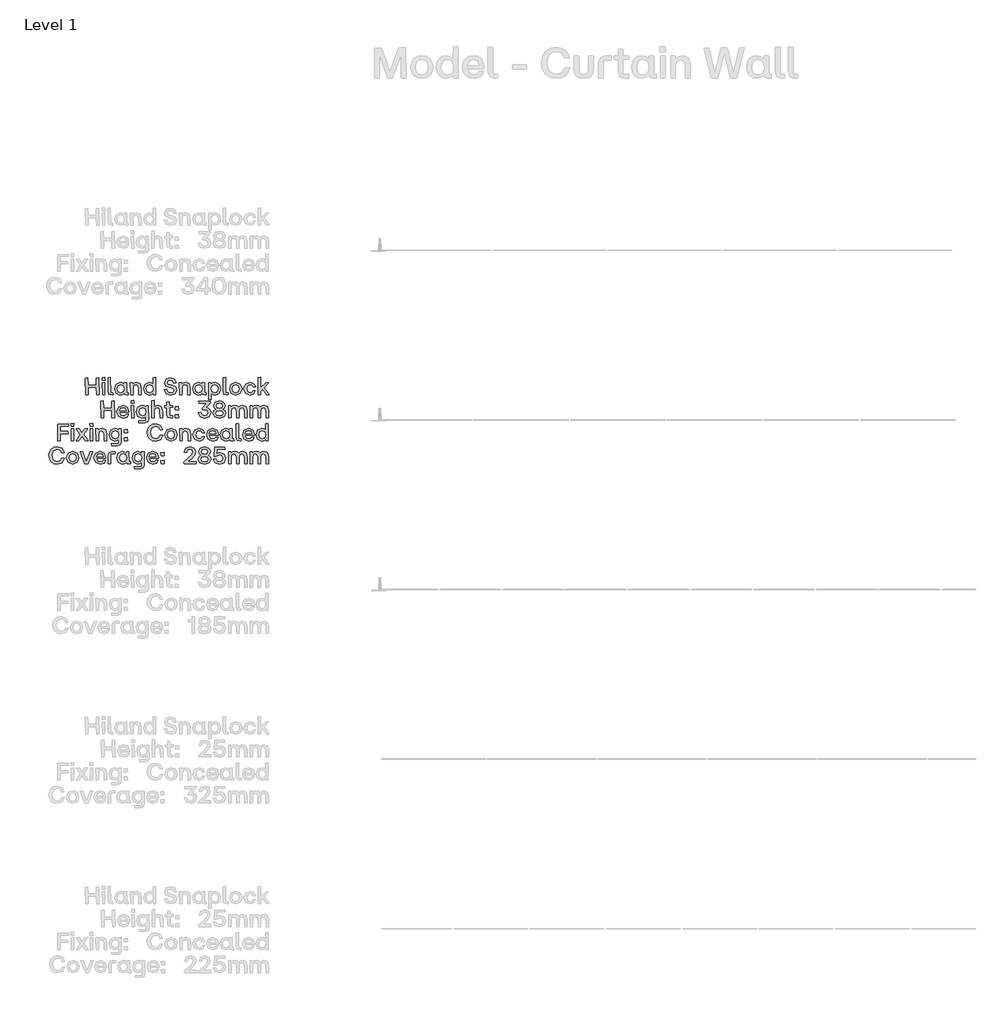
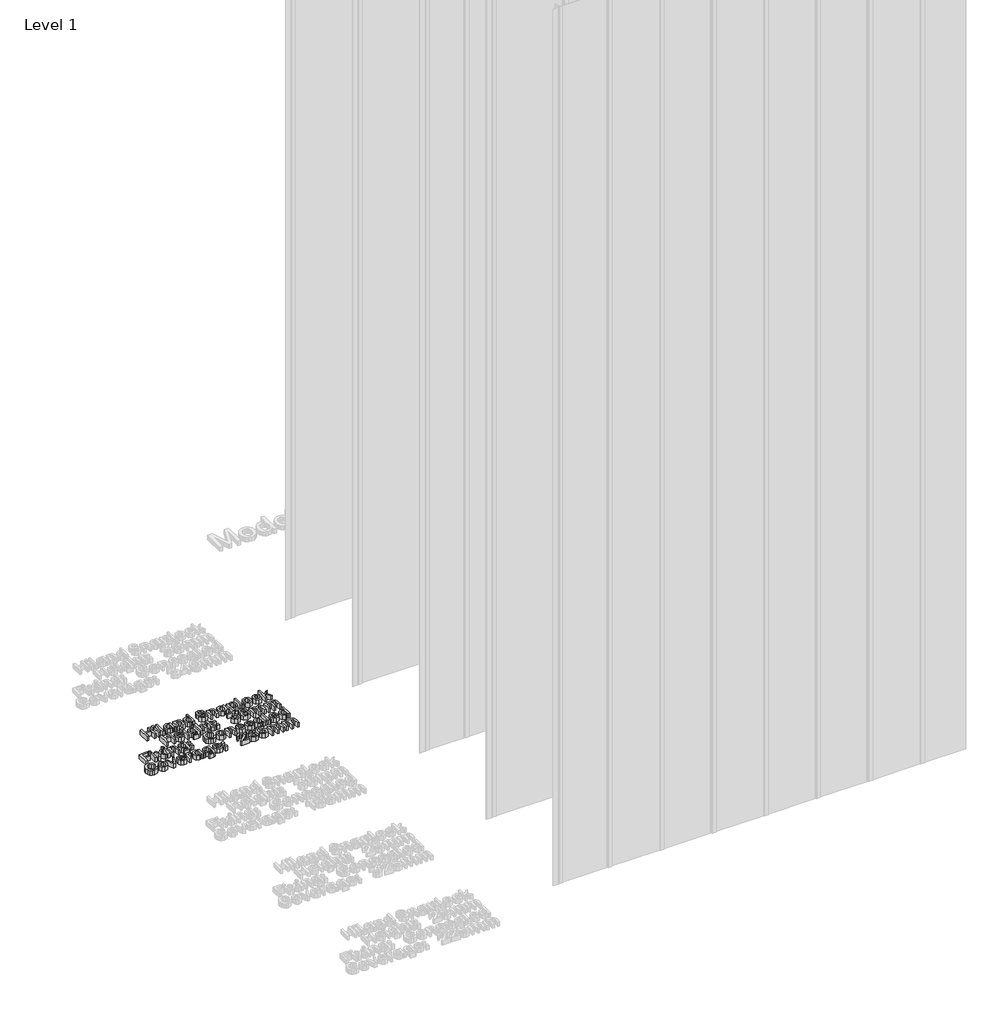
# One storey, part 8 of 64: 1 proxy.
"""IFC4 building model written with IfcOpenShell, lengths in millimetres."""

from ifc_helpers import new_model, si_unit, origin, origin_with_axes, place, context, project, spatial, polyline, outline, extrude, element, save

model = new_model("IFC4")

# Units and contexts
model_context = context("Model", 3, world=origin())
ifc_project = project(units=[si_unit("LENGTHUNIT", "METRE", prefix="MILLI")], contexts=[model_context])

# Site, building, storey
site = spatial("IfcSite", under=ifc_project)
building = spatial("IfcBuilding", under=site)
storey = spatial("IfcBuildingStorey", under=building, Name="Level 1", Elevation=0.0)

# Proxy
placement = place(None, origin())
element("IfcBuildingElementProxy", 1, Name="50mm", ObjectType="50mm", at=placement, inside=storey, context=model_context, shape_type="SweptSolid", body=[
    extrude(outline(polyline([(-811.1721134, -7433.5188866), (-811.8694452, -7411.5808277), (-835.7181932, -7411.5808277), (-835.7181932, -7432.8215548), (-843.2214836, -7433.5188866), (-843.9467087, -7384.2454206), (-836.457365, -7383.5201955), (-835.7181932, -7404.6075096), (-811.8694452, -7404.6075096), (-811.8694452, -7384.2454206), (-804.3801015, -7383.5201955), (-803.6827697, -7432.8215548), (-811.1721134, -7433.5188866)])), origin_with_axes(), (0.0, 0.0, 1.0), 20.0),
    extrude(outline(polyline([(-793.585405, -7433.5188866), (-794.3106301, -7397.8154977), (-787.1002191, -7397.1181659), (-786.4028873, -7432.8215548), (-793.585405, -7433.5188866)])), origin_with_axes(), (0.0, 0.0, 1.0), 20.0),
    extrude(outline(polyline([(-794.5198296, -7390.4516737), (-794.8684955, -7382.4044646), (-786.4726205, -7381.6652929), (-785.7334488, -7390.1030078), (-794.5198296, -7390.4516737)])), origin_with_axes(), (0.0, 0.0, 1.0), 20.0),
    extrude(outline(polyline([(-767.0031162, -7433.5188866), (-774.7016595, -7430.8690257), (-777.3515204, -7423.1565359), (-777.3515204, -7382.8228637), (-770.1411094, -7382.083692), (-769.4437776, -7427.2429003), (-762.7772854, -7427.2429003), (-762.0799536, -7432.8215548), (-767.0031162, -7433.5188866)])), origin_with_axes(), (0.0, 0.0, 1.0), 20.0),
    extrude(outline(polyline([(-741.9131175, -7433.9372857), (-753.6840786, -7428.8955767), (-758.0633224, -7415.3882594), (-753.6840786, -7401.7484491), (-741.9131175, -7396.6579269), (-735.2954386, -7398.2617901), (-730.3095161, -7402.6549805), (-729.9887435, -7397.8154977), (-722.8062258, -7397.1181659), (-722.0810007, -7427.2429003), (-718.1341027, -7427.2429003), (-717.4367709, -7432.8215548), (-723.4338245, -7433.5188866), (-728.0885143, -7432.2113895), (-729.6400776, -7428.288898), (-734.9955859, -7432.3334225), (-741.9131175, -7433.9372857)]), holes=[polyline([(-750.0021666, -7415.3882594), (-747.2477059, -7424.2792401), (-739.7234956, -7427.521833), (-732.3596717, -7424.2931867), (-729.7098108, -7415.3882594), (-732.3805916, -7406.392679), (-739.7234956, -7403.1152195), (-747.2477059, -7406.392679), (-750.0021666, -7415.3882594)])]), origin_with_axes(), (0.0, 0.0, 1.0), 20.0),
    extrude(outline(polyline([(-710.5750258, -7433.5188866), (-711.3002509, -7397.8154977), (-704.4385058, -7397.1181659), (-703.741174, -7402.6549805), (-698.5774319, -7398.1571903), (-691.9562663, -7396.6579269), (-682.3958472, -7400.8419178), (-679.083521, -7413.0870644), (-679.083521, -7432.8215548), (-686.3078786, -7433.5188866), (-687.0331037, -7413.0870644), (-688.9856328, -7405.7092939), (-695.1570194, -7403.3941522), (-701.3841925, -7405.7441604), (-703.3925081, -7413.0870644), (-703.3925081, -7432.8215548), (-710.5750258, -7433.5188866)])), origin_with_axes(), (0.0, 0.0, 1.0), 20.0),
    extrude(outline(polyline([(-656.2249842, -7433.9372857), (-667.9959452, -7428.8955767), (-672.375189, -7415.3882594), (-667.9959452, -7401.7484491), (-656.2249842, -7396.6579269), (-649.6073052, -7398.2617901), (-644.6213828, -7402.6549805), (-644.3006101, -7382.8228637), (-637.1180924, -7382.083692), (-636.3928674, -7432.8215548), (-643.2546124, -7433.5188866), (-643.9519442, -7428.0099653), (-649.3074526, -7432.3334225), (-656.2249842, -7433.9372857)]), holes=[polyline([(-664.3140332, -7415.3882594), (-661.5595725, -7424.2792401), (-654.0353623, -7427.521833), (-646.6715383, -7424.2931867), (-644.0216774, -7415.3882594), (-646.6924583, -7406.392679), (-654.0353623, -7403.1152195), (-661.5595725, -7406.392679), (-664.3140332, -7415.3882594)])]), origin_with_axes(), (0.0, 0.0, 1.0), 20.0),
    extrude(outline(polyline([(-592.2378169, -7433.9372857), (-605.8218406, -7429.823028), (-611.8049476, -7418.1078535), (-604.4411236, -7417.2989486), (-600.2780527, -7424.9417053), (-592.2378169, -7427.1034339), (-585.2854187, -7425.1160383), (-582.7959441, -7419.6001436), (-584.5183537, -7415.0186736), (-590.2852878, -7412.7383985), (-596.8820467, -7411.5808277), (-607.3629439, -7406.8180514), (-610.8565763, -7397.4668318), (-606.3797061, -7386.9022548), (-593.8835199, -7383.1017964), (-581.2897074, -7386.951068), (-575.6831596, -7397.8154977), (-583.0051436, -7398.610456), (-587.0287482, -7391.8672573), (-593.8835199, -7389.9635415), (-600.417519, -7391.706871), (-602.6699008, -7396.7973933), (-600.6615852, -7401.6299027), (-594.3716522, -7404.1612172), (-587.8167332, -7405.3048414), (-577.7193685, -7409.8932847), (-574.5953219, -7419.4606772), (-579.2883651, -7430.1019607), (-592.2378169, -7433.9372857)])), origin_with_axes(), (0.0, 0.0, 1.0), 20.0),
    extrude(outline(polyline([(-565.9763007, -7433.5188866), (-566.7015258, -7397.8154977), (-559.8397808, -7397.1181659), (-559.1424489, -7402.6549805), (-553.9787069, -7398.1571903), (-547.3575413, -7396.6579269), (-537.7971221, -7400.8419178), (-534.484796, -7413.0870644), (-534.484796, -7432.8215548), (-541.7091536, -7433.5188866), (-542.4343787, -7413.0870644), (-544.3869077, -7405.7092939), (-550.5582943, -7403.3941522), (-556.7854674, -7405.7441604), (-558.793783, -7413.0870644), (-558.793783, -7432.8215548), (-565.9763007, -7433.5188866)])), origin_with_axes(), (0.0, 0.0, 1.0), 20.0),
    extrude(outline(polyline([(-511.6262591, -7433.9372857), (-523.3972201, -7428.8955767), (-527.7764639, -7415.3882594), (-523.3972201, -7401.7484491), (-511.6262591, -7396.6579269), (-505.0085802, -7398.2617901), (-500.0226577, -7402.6549805), (-499.7018851, -7397.8154977), (-492.5193674, -7397.1181659), (-491.7941423, -7427.2429003), (-487.8472442, -7427.2429003), (-487.1499124, -7432.8215548), (-493.146966, -7433.5188866), (-497.8016559, -7432.2113895), (-499.3532192, -7428.288898), (-504.7087275, -7432.3334225), (-511.6262591, -7433.9372857)]), holes=[polyline([(-519.7153081, -7415.3882594), (-516.9608475, -7424.2792401), (-509.4366372, -7427.521833), (-502.0728132, -7424.2931867), (-499.4229523, -7415.3882594), (-502.0937332, -7406.392679), (-509.4366372, -7403.1152195), (-516.9608475, -7406.392679), (-519.7153081, -7415.3882594)])]), origin_with_axes(), (0.0, 0.0, 1.0), 20.0),
    extrude(outline(polyline([(-480.2881673, -7447.0750171), (-481.0133924, -7397.8154977), (-474.1516474, -7397.1181659), (-473.4543156, -7402.5852473), (-468.0988072, -7398.2617901), (-461.1812756, -7396.6579269), (-449.4103146, -7401.7135826), (-445.0310708, -7415.2487931), (-449.4103146, -7428.8607101), (-461.1812756, -7433.9372857), (-467.7989545, -7432.3334225), (-472.784877, -7427.9402321), (-473.1056497, -7446.3776853), (-480.2881673, -7447.0750171)]), holes=[polyline([(-473.3845824, -7415.2487931), (-470.7138015, -7424.2443735), (-463.3708975, -7427.521833), (-455.8466872, -7424.2443735), (-453.0922266, -7415.2487931), (-455.8466872, -7406.3578124), (-463.3708975, -7403.1152195), (-470.7347215, -7406.3368925), (-473.3845824, -7415.2487931)])]), origin_with_axes(), (0.0, 0.0, 1.0), 20.0),
    extrude(outline(polyline([(-427.8209216, -7433.5188866), (-435.5194648, -7430.8690257), (-438.1693257, -7423.1565359), (-438.1693257, -7382.8228637), (-430.9589148, -7382.083692), (-430.261583, -7427.2429003), (-423.5950908, -7427.2429003), (-422.897759, -7432.8215548), (-427.8209216, -7433.5188866)])), origin_with_axes(), (0.0, 0.0, 1.0), 20.0),
    extrude(outline(polyline([(-400.6807674, -7433.9372857), (-413.8394187, -7428.8118969), (-418.8811278, -7415.3882594), (-413.8254721, -7401.8530489), (-400.6807674, -7396.6579269), (-387.410543, -7401.8530489), (-382.3409407, -7415.3882594), (-387.410543, -7428.8118969), (-400.6807674, -7433.9372857)]), holes=[polyline([(-410.819972, -7415.3882594), (-408.1212979, -7424.2931867), (-400.6807674, -7427.521833), (-393.1426105, -7424.2792401), (-390.3881498, -7415.3882594), (-393.1286638, -7406.392679), (-400.6807674, -7403.1152195), (-408.1212979, -7406.392679), (-410.819972, -7415.3882594)])]), origin_with_axes(), (0.0, 0.0, 1.0), 20.0),
    extrude(outline(polyline([(-358.5898191, -7433.9372857), (-371.9228034, -7428.8955767), (-376.9296458, -7415.3882594), (-371.8530702, -7401.8530489), (-358.5898191, -7396.6579269), (-347.5161898, -7400.0957727), (-342.3001479, -7409.1820063), (-349.3153059, -7409.9490713), (-352.8856448, -7404.6493495), (-358.5898191, -7403.1152195), (-366.1488959, -7406.392679), (-368.86849, -7415.3882594), (-366.1349493, -7424.3141067), (-358.5898191, -7427.521833), (-352.7113119, -7426.0574362), (-349.733705, -7421.3155799), (-342.6488138, -7420.6461413), (-347.3069903, -7430.4994399), (-358.5898191, -7433.9372857)])), origin_with_axes(), (0.0, 0.0, 1.0), 20.0),
    extrude(outline(polyline([(-333.9042728, -7433.5188866), (-334.6294979, -7382.8228637), (-327.4190869, -7382.083692), (-326.7217551, -7412.8778649), (-311.4780817, -7397.4668318), (-303.5703389, -7397.1181659), (-316.2896712, -7412.0410667), (-302.2035685, -7432.6402485), (-309.8463252, -7433.5188866), (-321.5614997, -7417.2292154), (-326.7217551, -7422.2918444), (-326.7217551, -7432.8215548), (-333.9042728, -7433.5188866)])), origin_with_axes(), (0.0, 0.0, 1.0), 20.0),
    extrude(outline(polyline([(-765.6502925, -7501.3705811), (-766.3476243, -7479.4325222), (-790.1963724, -7479.4325222), (-790.1963724, -7500.6732493), (-797.6996627, -7501.3705811), (-798.4248878, -7452.0971151), (-790.9355441, -7451.37189), (-790.1963724, -7472.459204), (-766.3476243, -7472.459204), (-766.3476243, -7452.0971151), (-758.8582806, -7451.37189), (-758.1609488, -7500.6732493), (-765.6502925, -7501.3705811)])), origin_with_axes(), (0.0, 0.0, 1.0), 20.0),
    extrude(outline(polyline([(-732.5130847, -7501.7889802), (-745.9158022, -7496.7472711), (-750.9226446, -7483.2399539), (-745.9367221, -7469.586197), (-732.5130847, -7464.5096214), (-720.2330714, -7469.5164638), (-715.7352812, -7483.1702207), (-715.7352812, -7485.0809099), (-742.7917556, -7485.8200816), (-739.7234956, -7492.8631329), (-732.5130847, -7495.3735275), (-726.7252306, -7494.0974102), (-723.7267038, -7490.520098), (-716.6418126, -7489.9343393), (-721.2999891, -7498.6998002), (-732.5130847, -7501.7889802)]), holes=[polyline([(-742.7220224, -7480.0322275), (-723.5175043, -7480.0322275), (-726.1603919, -7473.3866554), (-732.5130847, -7470.966914), (-739.6049492, -7473.2681089), (-742.7220224, -7480.0322275)])]), origin_with_axes(), (0.0, 0.0, 1.0), 20.0),
    extrude(outline(polyline([(-708.8316963, -7458.3033682), (-709.1803622, -7450.2561591), (-700.7844871, -7449.5169873), (-700.0453154, -7457.9547023), (-708.8316963, -7458.3033682)])), origin_with_axes(), (0.0, 0.0, 1.0), 20.0),
    extrude(outline(polyline([(-707.8972716, -7501.3705811), (-708.6224967, -7465.6671922), (-701.4120858, -7464.9698603), (-700.7147539, -7500.6732493), (-707.8972716, -7501.3705811)])), origin_with_axes(), (0.0, 0.0, 1.0), 20.0),
    extrude(outline(polyline([(-686.2241988, -7514.9267115), (-686.9633706, -7509.348057), (-665.7226435, -7508.6507252), (-665.7226435, -7495.7919266), (-671.0293386, -7500.185117), (-677.6470175, -7501.7889802), (-689.4179785, -7496.7124045), (-693.7972223, -7483.1004875), (-689.4179785, -7469.565277), (-677.6470175, -7464.5096214), (-670.7294859, -7466.1134845), (-665.6529103, -7470.4369418), (-665.3739776, -7465.6671922), (-658.5401258, -7464.9698603), (-657.8149007, -7504.9269733), (-660.3950284, -7512.3675038), (-667.8146389, -7514.9267115), (-686.2241988, -7514.9267115)]), holes=[polyline([(-685.7360666, -7483.1004875), (-682.9816059, -7492.0960679), (-675.4573956, -7495.3735275), (-668.1144916, -7492.0960679), (-665.4437108, -7483.1004875), (-668.0935716, -7474.1885869), (-675.4573956, -7470.966914), (-682.9816059, -7474.2095069), (-685.7360666, -7483.1004875)])]), origin_with_axes(), (0.0, 0.0, 1.0), 20.0),
    extrude(outline(polyline([(-648.0940952, -7501.3705811), (-648.8193203, -7450.6745581), (-641.6089093, -7449.9353864), (-640.9115775, -7470.2277422), (-635.8245419, -7465.9391516), (-629.4753358, -7464.5096214), (-619.9149166, -7468.6936122), (-616.6025905, -7480.9387589), (-616.6025905, -7500.6732493), (-623.8269481, -7501.3705811), (-624.5521731, -7480.9387589), (-626.5047022, -7473.5609883), (-632.6760888, -7471.2458467), (-638.9032619, -7473.5958549), (-640.9115775, -7480.9387589), (-640.9115775, -7500.6732493), (-648.0940952, -7501.3705811)])), origin_with_axes(), (0.0, 0.0, 1.0), 20.0),
    extrude(outline(polyline([(-593.3256545, -7501.3705811), (-601.0381444, -7498.7207202), (-603.6880053, -7491.0082303), (-603.6880053, -7471.2458467), (-609.8942584, -7471.2458467), (-610.6194835, -7465.6671922), (-603.6880053, -7464.9698603), (-603.6880053, -7454.9561755), (-596.4636477, -7454.2309504), (-595.7663158, -7464.9698603), (-586.979935, -7464.9698603), (-586.2547099, -7470.506675), (-595.7663158, -7471.2458467), (-595.7663158, -7495.0945947), (-586.979935, -7495.0945947), (-586.2547099, -7500.6732493), (-593.3256545, -7501.3705811)])), origin_with_axes(), (0.0, 0.0, 1.0), 20.0),
    extrude(outline(polyline([(-578.849046, -7477.7310326), (-579.5463778, -7468.1078535), (-570.0626652, -7467.3686818), (-569.3374401, -7477.0337007), (-578.849046, -7477.7310326)])), origin_with_axes(), (0.0, 0.0, 1.0), 20.0),
    extrude(outline(polyline([(-579.1977119, -7501.0219152), (-579.5463778, -7491.747402), (-570.0626652, -7491.0082303), (-569.3374401, -7500.6732493), (-579.1977119, -7501.0219152)])), origin_with_axes(), (0.0, 0.0, 1.0), 20.0),
    extrude(outline(polyline([(-491.7244091, -7501.7889802), (-505.1201533, -7497.7235357), (-510.9428739, -7485.959548), (-503.57905, -7485.1506431), (-499.415979, -7492.7236666), (-491.7244091, -7494.9551284), (-484.5837313, -7492.5493336), (-481.9338704, -7485.959548), (-484.7022777, -7479.0908296), (-493.3701122, -7476.8942344), (-498.8093003, -7476.8942344), (-499.5066322, -7472.8078699), (-486.1457546, -7458.6520341), (-508.8508785, -7458.3731014), (-509.5761036, -7452.0971151), (-475.8670836, -7451.37189), (-475.1697518, -7456.1834795), (-488.0703904, -7470.0882759), (-477.3454271, -7475.2136647), (-473.7332483, -7485.959548), (-478.5797044, -7497.5352561), (-491.7244091, -7501.7889802)])), origin_with_axes(), (0.0, 0.0, 1.0), 20.0),
    extrude(outline(polyline([(-434.5710936, -7498.1768014), (-448.6153563, -7501.7889802), (-462.6875123, -7498.1768014), (-467.6246216, -7487.8702371), (-465.1490936, -7480.1368273), (-458.4895748, -7475.8063967), (-464.0542827, -7471.1691402), (-465.9091853, -7464.370155), (-461.2231155, -7454.5796163), (-448.6223296, -7450.9534909), (-436.0354904, -7454.5796163), (-431.3633672, -7464.370155), (-433.2182699, -7471.1691402), (-438.7829777, -7475.527464), (-432.1234589, -7480.1368273), (-429.647931, -7487.8702371), (-434.5710936, -7498.1768014)]), holes=[polyline([(-459.4239995, -7486.9358125), (-456.7218387, -7492.9502994), (-448.6153563, -7494.9551284), (-440.5402539, -7492.9502994), (-437.8485531, -7486.9358125), (-440.5402539, -7481.3606446), (-448.6153563, -7479.5022554), (-456.7218387, -7481.3606446), (-459.4239995, -7486.9358125)]), polyline([(-457.6806699, -7465.4579926), (-455.3446083, -7470.8065276), (-448.6153563, -7472.6684036), (-441.8861043, -7470.8065276), (-439.5500427, -7465.4579926), (-441.8861043, -7459.788685), (-448.6153563, -7457.8152359), (-455.3446083, -7459.788685), (-457.6806699, -7465.4579926)])]), origin_with_axes(), (0.0, 0.0, 1.0), 20.0),
    extrude(outline(polyline([(-421.3775756, -7501.3705811), (-422.1028007, -7465.6671922), (-415.2410557, -7464.9698603), (-414.5437239, -7470.506675), (-409.5578014, -7466.0088848), (-403.1074821, -7464.5096214), (-396.8210358, -7466.0088848), (-392.605665, -7470.506675), (-386.7829443, -7466.0646713), (-379.5376668, -7464.5096214), (-370.2631536, -7468.6796656), (-367.0554273, -7480.9387589), (-367.0554273, -7500.6732493), (-374.2658383, -7501.3705811), (-374.9631701, -7480.9387589), (-376.845966, -7473.5609883), (-382.8151263, -7471.2458467), (-388.7215268, -7473.5958549), (-390.6252426, -7480.9387589), (-390.6252426, -7500.6732493), (-397.8356536, -7501.3705811), (-398.5329854, -7480.9387589), (-400.4018347, -7473.5609883), (-406.3152085, -7471.2458467), (-412.2913421, -7473.5958549), (-414.195058, -7480.9387589), (-414.195058, -7500.6732493), (-421.3775756, -7501.3705811)])), origin_with_axes(), (0.0, 0.0, 1.0), 20.0),
    extrude(outline(polyline([(-358.0040603, -7501.3705811), (-358.7292854, -7465.6671922), (-351.8675404, -7464.9698603), (-351.1702086, -7470.506675), (-346.1842861, -7466.0088848), (-339.7339668, -7464.5096214), (-333.4475205, -7466.0088848), (-329.2321497, -7470.506675), (-323.409429, -7466.0646713), (-316.1641515, -7464.5096214), (-306.8896383, -7468.6796656), (-303.681912, -7480.9387589), (-303.681912, -7500.6732493), (-310.8923229, -7501.3705811), (-311.5896548, -7480.9387589), (-313.4724507, -7473.5609883), (-319.441611, -7471.2458467), (-325.3480115, -7473.5958549), (-327.2517273, -7480.9387589), (-327.2517273, -7500.6732493), (-334.4621383, -7501.3705811), (-335.1594701, -7480.9387589), (-337.0283194, -7473.5609883), (-342.9416931, -7471.2458467), (-348.9178268, -7473.5958549), (-350.8215426, -7480.9387589), (-350.8215426, -7500.6732493), (-358.0040603, -7501.3705811)])), origin_with_axes(), (0.0, 0.0, 1.0), 20.0),
    extrude(outline(polyline([(-925.3392781, -7569.2222755), (-926.0645031, -7519.9488095), (-894.4753719, -7519.2235844), (-893.7780401, -7525.527464), (-917.8359877, -7526.2247958), (-917.8359877, -7541.287163), (-895.9118755, -7541.287163), (-895.2145437, -7547.5631494), (-917.8359877, -7548.3023211), (-917.8359877, -7568.5249437), (-925.3392781, -7569.2222755)])), origin_with_axes(), (0.0, 0.0, 1.0), 20.0),
    extrude(outline(polyline([(-885.5216314, -7569.2222755), (-886.2468565, -7533.5188866), (-879.0364456, -7532.8215548), (-878.3391137, -7568.5249437), (-885.5216314, -7569.2222755)])), origin_with_axes(), (0.0, 0.0, 1.0), 20.0),
    extrude(outline(polyline([(-886.4560561, -7526.1550627), (-886.804722, -7518.1078535), (-878.4088469, -7517.3686818), (-877.6696752, -7525.8063967), (-886.4560561, -7526.1550627)])), origin_with_axes(), (0.0, 0.0, 1.0), 20.0),
    extrude(outline(polyline([(-871.4215821, -7569.2222755), (-858.6604099, -7550.7429824), (-870.8637167, -7533.658353), (-862.8722941, -7532.8215548), (-854.0859132, -7544.815662), (-845.8573978, -7533.2399539), (-837.7404555, -7532.8215548), (-849.3440569, -7549.9340775), (-836.303952, -7568.3436374), (-844.2953746, -7569.2222755), (-854.0161801, -7555.7916648), (-863.2906932, -7568.8038764), (-871.4215821, -7569.2222755)])), origin_with_axes(), (0.0, 0.0, 1.0), 20.0),
    extrude(outline(polyline([(-829.2887939, -7569.2222755), (-830.014019, -7533.5188866), (-822.803608, -7532.8215548), (-822.1062762, -7568.5249437), (-829.2887939, -7569.2222755)])), origin_with_axes(), (0.0, 0.0, 1.0), 20.0),
    extrude(outline(polyline([(-830.2232185, -7526.1550627), (-830.5718844, -7518.1078535), (-822.1760094, -7517.3686818), (-821.4368377, -7525.8063967), (-830.2232185, -7526.1550627)])), origin_with_axes(), (0.0, 0.0, 1.0), 20.0),
    extrude(outline(polyline([(-812.3296842, -7569.2222755), (-813.0549093, -7533.5188866), (-806.1931642, -7532.8215548), (-805.4958324, -7538.3583694), (-800.3320903, -7533.8605792), (-793.7109247, -7532.3613158), (-784.1505056, -7536.5453067), (-780.8381794, -7548.7904534), (-780.8381794, -7568.5249437), (-788.062537, -7569.2222755), (-788.7877621, -7548.7904534), (-790.7402912, -7541.4126828), (-796.9116778, -7539.0975411), (-803.1388509, -7541.4475493), (-805.1471665, -7548.7904534), (-805.1471665, -7568.5249437), (-812.3296842, -7569.2222755)])), origin_with_axes(), (0.0, 0.0, 1.0), 20.0),
    extrude(outline(polyline([(-766.5568239, -7582.778406), (-767.2959956, -7577.1997515), (-746.0552685, -7576.5024197), (-746.0552685, -7563.643621), (-751.3619636, -7568.0368114), (-757.9796426, -7569.6406746), (-769.7506036, -7564.564099), (-774.1298474, -7550.952182), (-769.7506036, -7537.4169715), (-757.9796426, -7532.3613158), (-751.0621109, -7533.965179), (-745.9855353, -7538.2886362), (-745.7066026, -7533.5188866), (-738.8727508, -7532.8215548), (-738.1475257, -7572.7786678), (-740.7276535, -7580.2191982), (-748.147264, -7582.778406), (-766.5568239, -7582.778406)]), holes=[polyline([(-766.0686916, -7550.952182), (-763.3142309, -7559.9477624), (-755.7900207, -7563.2252219), (-748.4471166, -7559.9477624), (-745.7763358, -7550.952182), (-748.4261967, -7542.0402814), (-755.7900207, -7538.8186084), (-763.3142309, -7542.0612013), (-766.0686916, -7550.952182)])]), origin_with_axes(), (0.0, 0.0, 1.0), 20.0),
    extrude(outline(polyline([(-728.8032794, -7545.582727), (-729.5006112, -7535.959548), (-720.0168986, -7535.2203762), (-719.2916735, -7544.8853952), (-728.8032794, -7545.582727)])), origin_with_axes(), (0.0, 0.0, 1.0), 20.0),
    extrude(outline(polyline([(-729.1519453, -7568.8736096), (-729.5006112, -7559.5990965), (-720.0168986, -7558.8599248), (-719.2916735, -7568.5249437), (-729.1519453, -7568.8736096)])), origin_with_axes(), (0.0, 0.0, 1.0), 20.0),
    extrude(outline(polyline([(-637.0483593, -7569.6406746), (-647.0550708, -7567.9269817), (-654.7605874, -7562.7859029), (-659.6767766, -7554.7160305), (-661.3155064, -7544.2159567), (-659.66283, -7533.8919591), (-654.7048008, -7525.7924501), (-646.9853376, -7520.5520015), (-637.0483593, -7518.8051853), (-622.8716035, -7523.4215219), (-615.9192053, -7535.7085085), (-623.2411893, -7536.5174134), (-628.4049314, -7528.3272513), (-637.0483593, -7525.8063967), (-648.7077472, -7530.743506), (-652.9475246, -7544.2159567), (-648.7286672, -7557.7999804), (-637.0483593, -7562.6673565), (-628.2340851, -7560.1813685), (-623.5480153, -7552.7234048), (-616.1284048, -7552.0679129), (-622.5926707, -7565.0382846), (-637.0483593, -7569.6406746)])), origin_with_axes(), (0.0, 0.0, 1.0), 20.0),
    extrude(outline(polyline([(-591.693898, -7569.6406746), (-604.8525494, -7564.5152858), (-609.8942584, -7551.0916483), (-604.8386027, -7537.5564378), (-591.693898, -7532.3613158), (-578.4236736, -7537.5564378), (-573.3540713, -7551.0916483), (-578.4236736, -7564.5152858), (-591.693898, -7569.6406746)]), holes=[polyline([(-601.8331026, -7551.0916483), (-599.1344285, -7559.9965756), (-591.693898, -7563.2252219), (-584.1557411, -7559.982629), (-581.4012805, -7551.0916483), (-584.1417945, -7542.0960679), (-591.693898, -7538.8186084), (-599.1344285, -7542.0960679), (-601.8331026, -7551.0916483)])]), origin_with_axes(), (0.0, 0.0, 1.0), 20.0),
    extrude(outline(polyline([(-565.083716, -7569.2222755), (-565.8089411, -7533.5188866), (-558.947196, -7532.8215548), (-558.2498642, -7538.3583694), (-553.0861221, -7533.8605792), (-546.4649565, -7532.3613158), (-536.9045374, -7536.5453067), (-533.5922113, -7548.7904534), (-533.5922113, -7568.5249437), (-540.8165689, -7569.2222755), (-541.5417939, -7548.7904534), (-543.494323, -7541.4126828), (-549.6657096, -7539.0975411), (-555.8928827, -7541.4475493), (-557.9011983, -7548.7904534), (-557.9011983, -7568.5249437), (-565.083716, -7569.2222755)])), origin_with_axes(), (0.0, 0.0, 1.0), 20.0),
    extrude(outline(polyline([(-508.5440525, -7569.6406746), (-521.8770368, -7564.5989656), (-526.8838792, -7551.0916483), (-521.8073036, -7537.5564378), (-508.5440525, -7532.3613158), (-497.4704233, -7535.7991616), (-492.2543813, -7544.8853952), (-499.2695393, -7545.6524602), (-502.8398782, -7540.3527384), (-508.5440525, -7538.8186084), (-516.1031293, -7542.0960679), (-518.8227234, -7551.0916483), (-516.0891827, -7560.0174956), (-508.5440525, -7563.2252219), (-502.6655453, -7561.7608251), (-499.6879384, -7557.0189688), (-492.6030472, -7556.3495302), (-497.2612237, -7566.2028288), (-508.5440525, -7569.6406746)])), origin_with_axes(), (0.0, 0.0, 1.0), 20.0),
    extrude(outline(polyline([(-468.3080068, -7569.6406746), (-481.7107242, -7564.5989656), (-486.7175667, -7551.0916483), (-481.7316442, -7537.4378914), (-468.3080068, -7532.3613158), (-456.0279935, -7537.3681582), (-451.5302033, -7551.0219152), (-451.5302033, -7552.9326043), (-478.5866777, -7553.6717761), (-475.5184177, -7560.7148274), (-468.3080068, -7563.2252219), (-462.5201527, -7561.9491047), (-459.5216259, -7558.3717925), (-452.4367347, -7557.7860338), (-457.0949112, -7566.5514947), (-468.3080068, -7569.6406746)]), holes=[polyline([(-478.5169445, -7547.883922), (-459.3124264, -7547.883922), (-461.9553139, -7541.2383498), (-468.3080068, -7538.8186084), (-475.3998713, -7541.1198034), (-478.5169445, -7547.883922)])]), origin_with_axes(), (0.0, 0.0, 1.0), 20.0),
    extrude(outline(polyline([(-430.4010493, -7569.6406746), (-442.1720104, -7564.5989656), (-446.5512542, -7551.0916483), (-442.1720104, -7537.4518381), (-430.4010493, -7532.3613158), (-423.7833704, -7533.965179), (-418.7974479, -7538.3583694), (-418.4766753, -7533.5188866), (-411.2941576, -7532.8215548), (-410.5689325, -7562.9462892), (-406.6220345, -7562.9462892), (-405.9247026, -7568.5249437), (-411.9217562, -7569.2222755), (-416.5764461, -7567.9147784), (-418.1280094, -7563.9922869), (-423.4835177, -7568.0368114), (-430.4010493, -7569.6406746)]), holes=[polyline([(-438.4900984, -7551.0916483), (-435.7356377, -7559.982629), (-428.2114274, -7563.2252219), (-420.8476035, -7559.9965756), (-418.1977426, -7551.0916483), (-420.8685234, -7542.0960679), (-428.2114274, -7538.8186084), (-435.7356377, -7542.0960679), (-438.4900984, -7551.0916483)])]), origin_with_axes(), (0.0, 0.0, 1.0), 20.0),
    extrude(outline(polyline([(-389.4397785, -7569.2222755), (-397.1383218, -7566.5724146), (-399.7881827, -7558.8599248), (-399.7881827, -7518.5262526), (-392.5777717, -7517.7870809), (-391.8804399, -7562.9462892), (-385.2139477, -7562.9462892), (-384.5166159, -7568.5249437), (-389.4397785, -7569.2222755)])), origin_with_axes(), (0.0, 0.0, 1.0), 20.0),
    extrude(outline(polyline([(-362.0904248, -7569.6406746), (-375.4931422, -7564.5989656), (-380.4999847, -7551.0916483), (-375.5140622, -7537.4378914), (-362.0904248, -7532.3613158), (-349.8104115, -7537.3681582), (-345.3126213, -7551.0219152), (-345.3126213, -7552.9326043), (-372.3690957, -7553.6717761), (-369.3008357, -7560.7148274), (-362.0904248, -7563.2252219), (-356.3025707, -7561.9491047), (-353.3040439, -7558.3717925), (-346.2191527, -7557.7860338), (-350.8773292, -7566.5514947), (-362.0904248, -7569.6406746)]), holes=[polyline([(-372.2993625, -7547.883922), (-353.0948444, -7547.883922), (-355.7377319, -7541.2383498), (-362.0904248, -7538.8186084), (-369.1822893, -7541.1198034), (-372.2993625, -7547.883922)])]), origin_with_axes(), (0.0, 0.0, 1.0), 20.0),
    extrude(outline(polyline([(-324.1834673, -7569.6406746), (-335.9544284, -7564.5989656), (-340.3336722, -7551.0916483), (-335.9544284, -7537.4518381), (-324.1834673, -7532.3613158), (-317.5657884, -7533.965179), (-312.5798659, -7538.3583694), (-312.2590933, -7518.5262526), (-305.0765756, -7517.7870809), (-304.3513505, -7568.5249437), (-311.2130956, -7569.2222755), (-311.9104274, -7563.7133542), (-317.2659357, -7568.0368114), (-324.1834673, -7569.6406746)]), holes=[polyline([(-332.2725164, -7551.0916483), (-329.5180557, -7559.982629), (-321.9938454, -7563.2252219), (-314.6300215, -7559.9965756), (-311.9801606, -7551.0916483), (-314.6509414, -7542.0960679), (-321.9938454, -7538.8186084), (-329.5180557, -7542.0960679), (-332.2725164, -7551.0916483)])]), origin_with_axes(), (0.0, 0.0, 1.0), 20.0),
    extrude(outline(polyline([(-927.1383941, -7637.4923691), (-937.1451057, -7635.7786761), (-944.8506222, -7630.6375973), (-949.7668115, -7622.5677249), (-951.4055413, -7612.0676511), (-949.7528649, -7601.7436536), (-944.7948357, -7593.6441446), (-937.0753725, -7588.403696), (-927.1383941, -7586.6568798), (-912.9616383, -7591.2732164), (-906.0092402, -7603.560203), (-913.3312242, -7604.3691079), (-918.4949663, -7596.1789457), (-927.1383941, -7593.6580912), (-938.7977821, -7598.5952004), (-943.0375595, -7612.0676511), (-938.818702, -7625.6516749), (-927.1383941, -7630.5190509), (-918.32412, -7628.033063), (-913.6380502, -7620.5750992), (-906.2184397, -7619.9196073), (-912.6827056, -7632.8899791), (-927.1383941, -7637.4923691)])), origin_with_axes(), (0.0, 0.0, 1.0), 20.0),
    extrude(outline(polyline([(-881.7839329, -7637.4923691), (-894.9425843, -7632.3669802), (-899.9842933, -7618.9433428), (-894.9286376, -7605.4081323), (-881.7839329, -7600.2130103), (-868.5137085, -7605.4081323), (-863.4441062, -7618.9433428), (-868.5137085, -7632.3669802), (-881.7839329, -7637.4923691)]), holes=[polyline([(-891.9231375, -7618.9433428), (-889.2244634, -7627.8482701), (-881.7839329, -7631.0769164), (-874.245776, -7627.8343234), (-871.4913153, -7618.9433428), (-874.2318294, -7609.9477624), (-881.7839329, -7606.6703029), (-889.2244634, -7609.9477624), (-891.9231375, -7618.9433428)])]), origin_with_axes(), (0.0, 0.0, 1.0), 20.0),
    extrude(outline(polyline([(-845.3413723, -7637.07397), (-859.7343009, -7601.5100474), (-852.4820501, -7600.6732493), (-841.0458083, -7630.5887841), (-830.2092719, -7601.2311147), (-822.8454479, -7600.6732493), (-835.9552861, -7636.5161045), (-845.3413723, -7637.07397)])), origin_with_axes(), (0.0, 0.0, 1.0), 20.0),
    extrude(outline(polyline([(-800.3495236, -7637.4923691), (-813.7522411, -7632.45066), (-818.7590835, -7618.9433428), (-813.773161, -7605.2895859), (-800.3495236, -7600.2130103), (-788.0695104, -7605.2198527), (-783.5717201, -7618.8736096), (-783.5717201, -7620.7842988), (-810.6281946, -7621.5234705), (-807.5599346, -7628.5665218), (-800.3495236, -7631.0769164), (-794.5616695, -7629.8007992), (-791.5631427, -7626.2234869), (-784.4782515, -7625.6377282), (-789.136428, -7634.4031891), (-800.3495236, -7637.4923691)]), holes=[polyline([(-810.5584614, -7615.7356165), (-791.3539432, -7615.7356165), (-793.9968308, -7609.0900443), (-800.3495236, -7606.6703029), (-807.4413882, -7608.9714978), (-810.5584614, -7615.7356165)])]), origin_with_axes(), (0.0, 0.0, 1.0), 20.0),
    extrude(outline(polyline([(-776.1102697, -7637.07397), (-776.8076015, -7610.9937601), (-774.1577406, -7603.3021902), (-766.4591974, -7600.6732493), (-756.3060462, -7600.6732493), (-755.6087144, -7606.6703029), (-768.8998588, -7607.3676347), (-768.8998588, -7636.3766382), (-776.1102697, -7637.07397)])), origin_with_axes(), (0.0, 0.0, 1.0), 20.0),
    extrude(outline(polyline([(-734.7724398, -7637.4923691), (-746.5434008, -7632.45066), (-750.9226446, -7618.9433428), (-746.5434008, -7605.3035325), (-734.7724398, -7600.2130103), (-728.1547608, -7601.8168734), (-723.1688384, -7606.2100639), (-722.8480657, -7601.3705811), (-715.665548, -7600.6732493), (-714.940323, -7630.7979836), (-710.9934249, -7630.7979836), (-710.2960931, -7636.3766382), (-716.2931467, -7637.07397), (-720.9478365, -7635.7664728), (-722.4993998, -7631.8439814), (-727.8549082, -7635.8885059), (-734.7724398, -7637.4923691)]), holes=[polyline([(-742.8614888, -7618.9433428), (-740.1070281, -7627.8343234), (-732.5828179, -7631.0769164), (-725.2189939, -7627.8482701), (-722.569133, -7618.9433428), (-725.2399139, -7609.9477624), (-732.5828179, -7606.6703029), (-740.1070281, -7609.9477624), (-742.8614888, -7618.9433428)])]), origin_with_axes(), (0.0, 0.0, 1.0), 20.0),
    extrude(outline(polyline([(-698.7203849, -7650.6301005), (-699.4595567, -7645.0514459), (-678.2188296, -7644.3541141), (-678.2188296, -7631.4953155), (-683.5255247, -7635.8885059), (-690.1432036, -7637.4923691), (-701.9141647, -7632.4157935), (-706.2934085, -7618.8038764), (-701.9141647, -7605.2686659), (-690.1432036, -7600.2130103), (-683.225672, -7601.8168734), (-678.1490964, -7606.1403307), (-677.8701637, -7601.3705811), (-671.0363119, -7600.6732493), (-670.3110868, -7640.6303622), (-672.8912145, -7648.0708927), (-680.310825, -7650.6301005), (-698.7203849, -7650.6301005)]), holes=[polyline([(-698.2322527, -7618.8038764), (-695.477792, -7627.7994568), (-687.9535817, -7631.0769164), (-680.6106777, -7627.7994568), (-677.9398969, -7618.8038764), (-680.5897578, -7609.8919758), (-687.9535817, -7606.6703029), (-695.477792, -7609.9128958), (-698.2322527, -7618.8038764)])]), origin_with_axes(), (0.0, 0.0, 1.0), 20.0),
    extrude(outline(polyline([(-645.0397819, -7637.4923691), (-658.4424993, -7632.45066), (-663.4493418, -7618.9433428), (-658.4634193, -7605.2895859), (-645.0397819, -7600.2130103), (-632.7597686, -7605.2198527), (-628.2619784, -7618.8736096), (-628.2619784, -7620.7842988), (-655.3184528, -7621.5234705), (-652.2501928, -7628.5665218), (-645.0397819, -7631.0769164), (-639.2519278, -7629.8007992), (-636.253401, -7626.2234869), (-629.1685098, -7625.6377282), (-633.8266863, -7634.4031891), (-645.0397819, -7637.4923691)]), holes=[polyline([(-655.2487196, -7615.7356165), (-636.0442015, -7615.7356165), (-638.687089, -7609.0900443), (-645.0397819, -7606.6703029), (-652.1316464, -7608.9714978), (-655.2487196, -7615.7356165)])]), origin_with_axes(), (0.0, 0.0, 1.0), 20.0),
    extrude(outline(polyline([(-620.800528, -7613.4344215), (-621.4978598, -7603.8112424), (-612.0141471, -7603.0720707), (-611.288922, -7612.7370896), (-620.800528, -7613.4344215)])), origin_with_axes(), (0.0, 0.0, 1.0), 20.0),
    extrude(outline(polyline([(-621.1491939, -7636.7253041), (-621.4978598, -7627.4507909), (-612.0141471, -7626.7116192), (-611.288922, -7636.3766382), (-621.1491939, -7636.7253041)])), origin_with_axes(), (0.0, 0.0, 1.0), 20.0),
    extrude(outline(polyline([(-553.312755, -7637.07397), (-554.0379801, -7632.2902737), (-536.6744179, -7616.2934819), (-529.5267668, -7608.3787658), (-527.5393711, -7601.0916483), (-529.5197935, -7595.4118807), (-535.4610605, -7593.5186248), (-542.3297789, -7595.5966736), (-545.181866, -7602.1655393), (-552.6154232, -7602.8628712), (-548.0269798, -7590.6665377), (-535.4610605, -7586.6568798), (-523.6343129, -7590.5270714), (-519.3108557, -7601.0916483), (-521.9955832, -7610.8682404), (-531.1654965, -7621.2724311), (-540.6213159, -7629.7798792), (-517.8882988, -7630.0588119), (-517.190967, -7636.3766382), (-553.312755, -7637.07397)])), origin_with_axes(), (0.0, 0.0, 1.0), 20.0),
    extrude(outline(polyline([(-478.307745, -7633.8801903), (-492.3520077, -7637.4923691), (-506.4241638, -7633.8801903), (-511.361273, -7623.573626), (-508.8857451, -7615.8402162), (-502.2262262, -7611.5097857), (-507.7909341, -7606.8725291), (-509.6458367, -7600.0735439), (-504.9597669, -7590.2830052), (-492.3589811, -7586.6568798), (-479.7721418, -7590.2830052), (-475.1000186, -7600.0735439), (-476.9549213, -7606.8725291), (-482.5196292, -7611.2308529), (-475.8601103, -7615.8402162), (-473.3845824, -7623.573626), (-478.307745, -7633.8801903)]), holes=[polyline([(-503.1606509, -7622.6392014), (-500.4584901, -7628.6536883), (-492.3520077, -7630.6585173), (-484.2769053, -7628.6536883), (-481.5852045, -7622.6392014), (-484.2769053, -7617.0640336), (-492.3520077, -7615.2056443), (-500.4584901, -7617.0640336), (-503.1606509, -7622.6392014)]), polyline([(-501.4173213, -7601.1613815), (-499.0812597, -7606.5099165), (-492.3520077, -7608.3717925), (-485.6227557, -7606.5099165), (-483.2866941, -7601.1613815), (-485.6227557, -7595.4920739), (-492.3520077, -7593.5186248), (-499.0812597, -7595.4920739), (-501.4173213, -7601.1613815)])]), origin_with_axes(), (0.0, 0.0, 1.0), 20.0),
    extrude(outline(polyline([(-448.1969572, -7637.4923691), (-461.3974485, -7633.7965104), (-467.2062225, -7623.0854938), (-459.8423985, -7622.2905355), (-455.634001, -7628.7234215), (-448.1969572, -7630.6585173), (-440.7912934, -7627.9737898), (-438.197219, -7620.3658997), (-440.7773467, -7613.0648356), (-448.3364236, -7610.575361), (-458.6987744, -7614.5083125), (-463.5382572, -7614.2293797), (-462.4922594, -7587.800504), (-432.8556573, -7587.0752789), (-432.1304322, -7593.3791585), (-455.8397139, -7594.0764903), (-456.6346722, -7606.740036), (-451.4604701, -7604.5434408), (-445.7562959, -7603.7415092), (-434.2015077, -7608.1695663), (-429.9965969, -7620.3658997), (-434.8081864, -7632.9736589), (-448.1969572, -7637.4923691)])), origin_with_axes(), (0.0, 0.0, 1.0), 20.0),
    extrude(outline(polyline([(-421.3775756, -7637.07397), (-422.1028007, -7601.3705811), (-415.2410557, -7600.6732493), (-414.5437239, -7606.2100639), (-409.5578014, -7601.7122737), (-403.1074821, -7600.2130103), (-396.8210358, -7601.7122737), (-392.605665, -7606.2100639), (-386.7829443, -7601.7680602), (-379.5376668, -7600.2130103), (-370.2631536, -7604.3830545), (-367.0554273, -7616.6421478), (-367.0554273, -7636.3766382), (-374.2658383, -7637.07397), (-374.9631701, -7616.6421478), (-376.845966, -7609.2643772), (-382.8151263, -7606.9492356), (-388.7215268, -7609.2992438), (-390.6252426, -7616.6421478), (-390.6252426, -7636.3766382), (-397.8356536, -7637.07397), (-398.5329854, -7616.6421478), (-400.4018347, -7609.2643772), (-406.3152085, -7606.9492356), (-412.2913421, -7609.2992438), (-414.195058, -7616.6421478), (-414.195058, -7636.3766382), (-421.3775756, -7637.07397)])), origin_with_axes(), (0.0, 0.0, 1.0), 20.0),
    extrude(outline(polyline([(-358.0040603, -7637.07397), (-358.7292854, -7601.3705811), (-351.8675404, -7600.6732493), (-351.1702086, -7606.2100639), (-346.1842861, -7601.7122737), (-339.7339668, -7600.2130103), (-333.4475205, -7601.7122737), (-329.2321497, -7606.2100639), (-323.409429, -7601.7680602), (-316.1641515, -7600.2130103), (-306.8896383, -7604.3830545), (-303.681912, -7616.6421478), (-303.681912, -7636.3766382), (-310.8923229, -7637.07397), (-311.5896548, -7616.6421478), (-313.4724507, -7609.2643772), (-319.441611, -7606.9492356), (-325.3480115, -7609.2992438), (-327.2517273, -7616.6421478), (-327.2517273, -7636.3766382), (-334.4621383, -7637.07397), (-335.1594701, -7616.6421478), (-337.0283194, -7609.2643772), (-342.9416931, -7606.9492356), (-348.9178268, -7609.2992438), (-350.8215426, -7616.6421478), (-350.8215426, -7636.3766382), (-358.0040603, -7637.07397)])), origin_with_axes(), (0.0, 0.0, 1.0), 20.0),
])

save(model, "model.ifc")
